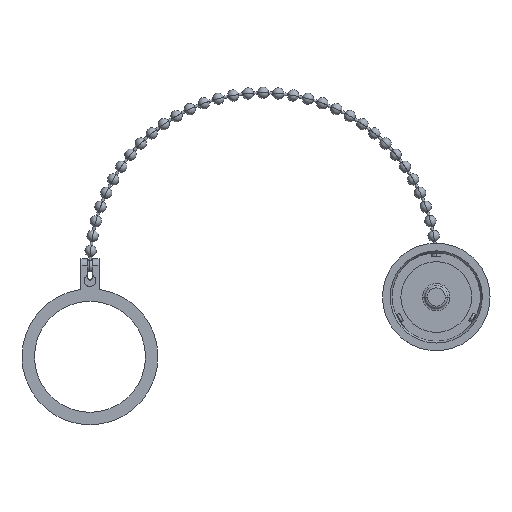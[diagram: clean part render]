
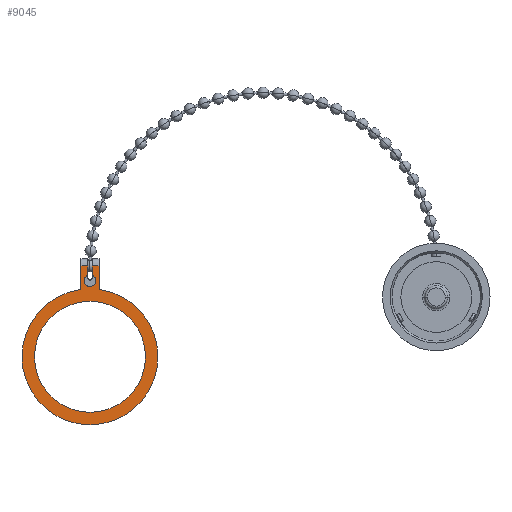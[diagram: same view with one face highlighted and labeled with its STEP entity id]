
A CAD part, top view. The second image highlights one B-rep face of the part: STEP entity #9045.
In plain terms, the highlighted planar face has unit normal (0, 0, 1).
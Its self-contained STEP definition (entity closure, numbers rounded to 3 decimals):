
#2793 = DIRECTION ( 'NONE',  ( 0., 1., 0. ) ) ;
#2794 = DIRECTION ( 'NONE',  ( 0., 0., 1. ) ) ;
#2799 = PLANE ( 'NONE',  #10315 ) ;
#2800 = CARTESIAN_POINT ( 'NONE',  ( -97.028, -16.749, -10.554 ) ) ;
#5180 = CARTESIAN_POINT ( 'NONE',  ( -93.853, 2.035, -10.554 ) ) ;
#5200 = CARTESIAN_POINT ( 'NONE',  ( -94.488, 8.709, -10.554 ) ) ;
#5201 = CARTESIAN_POINT ( 'NONE',  ( -96.393, 6.111, -10.554 ) ) ;
#5205 = CARTESIAN_POINT ( 'NONE',  ( -96.393, 8.709, -10.554 ) ) ;
#5209 = CARTESIAN_POINT ( 'NONE',  ( -99.568, 8.709, -10.554 ) ) ;
#5211 = CARTESIAN_POINT ( 'NONE',  ( -97.663, 6.111, -10.554 ) ) ;
#5212 = CARTESIAN_POINT ( 'NONE',  ( -97.663, 8.709, -10.554 ) ) ;
#5227 = CARTESIAN_POINT ( 'NONE',  ( -99.568, 2.786, -10.554 ) ) ;
#5230 = CARTESIAN_POINT ( 'NONE',  ( -94.488, 2.786, -10.554 ) ) ;
#5234 = CARTESIAN_POINT ( 'NONE',  ( -100.203, 2.035, -10.554 ) ) ;
#8368 = VERTEX_POINT ( 'NONE', #5230 ) ;
#8373 = VERTEX_POINT ( 'NONE', #5234 ) ;
#8379 = VERTEX_POINT ( 'NONE', #5227 ) ;
#8395 = VERTEX_POINT ( 'NONE', #5212 ) ;
#8401 = VERTEX_POINT ( 'NONE', #5209 ) ;
#8403 = VERTEX_POINT ( 'NONE', #5211 ) ;
#8413 = VERTEX_POINT ( 'NONE', #5205 ) ;
#8420 = VERTEX_POINT ( 'NONE', #5201 ) ;
#8446 = VERTEX_POINT ( 'NONE', #5200 ) ;
#8508 = VERTEX_POINT ( 'NONE', #5180 ) ;
#9045 = ADVANCED_FACE ( 'NONE', ( #12105, #12110 ), #2799, .T. ) ;
#10027 = EDGE_CURVE ( 'NONE', #11843, #11117, #13168, .T. ) ;
#10057 = EDGE_CURVE ( 'NONE', #8379, #8373, #13220, .T. ) ;
#10074 = EDGE_CURVE ( 'NONE', #8508, #8368, #13246, .T. ) ;
#10080 = EDGE_CURVE ( 'NONE', #8403, #8395, #13254, .T. ) ;
#10082 = EDGE_CURVE ( 'NONE', #8420, #8403, #13258, .T. ) ;
#10083 = EDGE_CURVE ( 'NONE', #8401, #8379, #13259, .T. ) ;
#10088 = EDGE_CURVE ( 'NONE', #8413, #8420, #13266, .T. ) ;
#10091 = EDGE_CURVE ( 'NONE', #8446, #8413, #13270, .T. ) ;
#10093 = EDGE_CURVE ( 'NONE', #11117, #11843, #13252, .T. ) ;
#10095 = EDGE_CURVE ( 'NONE', #8373, #8508, #13274, .T. ) ;
#10111 = EDGE_CURVE ( 'NONE', #8395, #8401, #13291, .T. ) ;
#10119 = EDGE_CURVE ( 'NONE', #8368, #8446, #13294, .T. ) ;
#10315 = AXIS2_PLACEMENT_3D ( 'NONE', #2800, #2794, #2793 ) ;
#10948 = EDGE_LOOP ( 'NONE', ( #16495, #16470, #16497, #16487, #16481, #16488, #16479, #16237, #16225, #16483 ) ) ;
#11117 = VERTEX_POINT ( 'NONE', #14504 ) ;
#11332 = EDGE_LOOP ( 'NONE', ( #16491, #16212 ) ) ;
#11843 = VERTEX_POINT ( 'NONE', #14956 ) ;
#12105 = FACE_OUTER_BOUND ( 'NONE', #10948, .T. ) ;
#12110 = FACE_BOUND ( 'NONE', #11332, .T. ) ;
#12803 = AXIS2_PLACEMENT_3D ( 'NONE', #14109, #14110, #14111 ) ;
#12813 = AXIS2_PLACEMENT_3D ( 'NONE', #14179, #14180, #14181 ) ;
#12822 = AXIS2_PLACEMENT_3D ( 'NONE', #14222, #14223, #14224 ) ;
#12824 = AXIS2_PLACEMENT_3D ( 'NONE', #14248, #14249, #14250 ) ;
#12829 = AXIS2_PLACEMENT_3D ( 'NONE', #14274, #14275, #14276 ) ;
#12830 = AXIS2_PLACEMENT_3D ( 'NONE', #14278, #14279, #14280 ) ;
#13168 = CIRCLE ( 'NONE', #12803, 15.558 ) ;
#13220 = CIRCLE ( 'NONE', #12813, 0.762 ) ;
#13246 = CIRCLE ( 'NONE', #12822, 0.762 ) ;
#13252 = CIRCLE ( 'NONE', #12829, 15.558 ) ;
#13254 = LINE ( 'NONE', #14239, #13257 ) ;
#13257 = VECTOR ( 'NONE', #14240, 1000. ) ;
#13258 = CIRCLE ( 'NONE', #12824, 1.651 ) ;
#13259 = LINE ( 'NONE', #14241, #13261 ) ;
#13261 = VECTOR ( 'NONE', #14242, 1000. ) ;
#13266 = LINE ( 'NONE', #14254, #13268 ) ;
#13268 = VECTOR ( 'NONE', #14255, 1000. ) ;
#13270 = LINE ( 'NONE', #14268, #13273 ) ;
#13273 = VECTOR ( 'NONE', #14269, 1000. ) ;
#13274 = CIRCLE ( 'NONE', #12830, 19.05 ) ;
#13291 = LINE ( 'NONE', #14344, #13292 ) ;
#13292 = VECTOR ( 'NONE', #14345, 1000. ) ;
#13294 = LINE ( 'NONE', #14376, #13297 ) ;
#13297 = VECTOR ( 'NONE', #14377, 1000. ) ;
#14109 = CARTESIAN_POINT ( 'NONE',  ( -97.028, -16.749, -10.554 ) ) ;
#14110 = DIRECTION ( 'NONE',  ( 0., 0., -1. ) ) ;
#14111 = DIRECTION ( 'NONE',  ( 0., 1., 0. ) ) ;
#14179 = CARTESIAN_POINT ( 'NONE',  ( -100.33, 2.786, -10.554 ) ) ;
#14180 = DIRECTION ( 'NONE',  ( 0., 0., -1. ) ) ;
#14181 = DIRECTION ( 'NONE',  ( 0., -1., 0. ) ) ;
#14222 = CARTESIAN_POINT ( 'NONE',  ( -93.726, 2.786, -10.554 ) ) ;
#14223 = DIRECTION ( 'NONE',  ( 0., 0., -1. ) ) ;
#14224 = DIRECTION ( 'NONE',  ( 0., -1., 0. ) ) ;
#14239 = CARTESIAN_POINT ( 'NONE',  ( -97.663, -16.749, -10.554 ) ) ;
#14240 = DIRECTION ( 'NONE',  ( 0., 1., 0. ) ) ;
#14241 = CARTESIAN_POINT ( 'NONE',  ( -99.568, -16.749, -10.554 ) ) ;
#14242 = DIRECTION ( 'NONE',  ( 0., -1., 0. ) ) ;
#14248 = CARTESIAN_POINT ( 'NONE',  ( -97.028, 4.587, -10.554 ) ) ;
#14249 = DIRECTION ( 'NONE',  ( 0., 0., -1. ) ) ;
#14250 = DIRECTION ( 'NONE',  ( 0., 1., 0. ) ) ;
#14254 = CARTESIAN_POINT ( 'NONE',  ( -96.393, -16.749, -10.554 ) ) ;
#14255 = DIRECTION ( 'NONE',  ( 0., -1., 0. ) ) ;
#14268 = CARTESIAN_POINT ( 'NONE',  ( -97.028, 8.709, -10.554 ) ) ;
#14269 = DIRECTION ( 'NONE',  ( -1., 0., 0. ) ) ;
#14274 = CARTESIAN_POINT ( 'NONE',  ( -97.028, -16.749, -10.554 ) ) ;
#14275 = DIRECTION ( 'NONE',  ( 0., 0., -1. ) ) ;
#14276 = DIRECTION ( 'NONE',  ( 0., 1., 0. ) ) ;
#14278 = CARTESIAN_POINT ( 'NONE',  ( -97.028, -16.749, -10.554 ) ) ;
#14279 = DIRECTION ( 'NONE',  ( 0., 0., 1. ) ) ;
#14280 = DIRECTION ( 'NONE',  ( 0., 1., 0. ) ) ;
#14344 = CARTESIAN_POINT ( 'NONE',  ( -97.028, 8.709, -10.554 ) ) ;
#14345 = DIRECTION ( 'NONE',  ( -1., 0., 0. ) ) ;
#14376 = CARTESIAN_POINT ( 'NONE',  ( -94.488, -16.749, -10.554 ) ) ;
#14377 = DIRECTION ( 'NONE',  ( 0., 1., 0. ) ) ;
#14504 = CARTESIAN_POINT ( 'NONE',  ( -97.028, -32.306, -10.554 ) ) ;
#14956 = CARTESIAN_POINT ( 'NONE',  ( -97.028, -1.191, -10.554 ) ) ;
#16212 = ORIENTED_EDGE ( 'NONE', *, *, #10093, .T. ) ;
#16225 = ORIENTED_EDGE ( 'NONE', *, *, #10057, .T. ) ;
#16237 = ORIENTED_EDGE ( 'NONE', *, *, #10083, .T. ) ;
#16470 = ORIENTED_EDGE ( 'NONE', *, *, #10119, .T. ) ;
#16479 = ORIENTED_EDGE ( 'NONE', *, *, #10111, .T. ) ;
#16481 = ORIENTED_EDGE ( 'NONE', *, *, #10082, .T. ) ;
#16483 = ORIENTED_EDGE ( 'NONE', *, *, #10095, .T. ) ;
#16487 = ORIENTED_EDGE ( 'NONE', *, *, #10088, .T. ) ;
#16488 = ORIENTED_EDGE ( 'NONE', *, *, #10080, .T. ) ;
#16491 = ORIENTED_EDGE ( 'NONE', *, *, #10027, .T. ) ;
#16495 = ORIENTED_EDGE ( 'NONE', *, *, #10074, .T. ) ;
#16497 = ORIENTED_EDGE ( 'NONE', *, *, #10091, .T. ) ;
